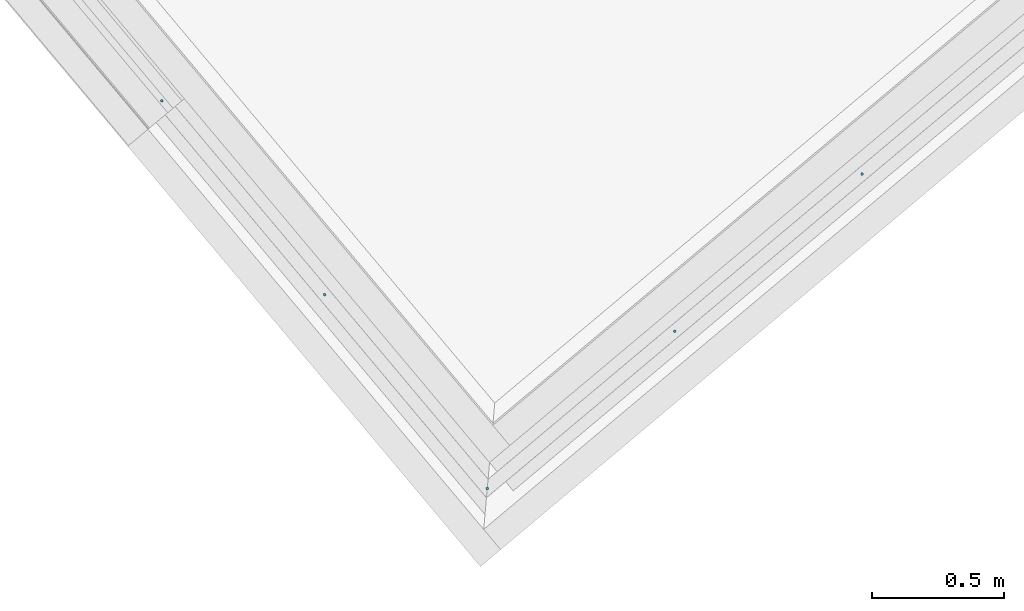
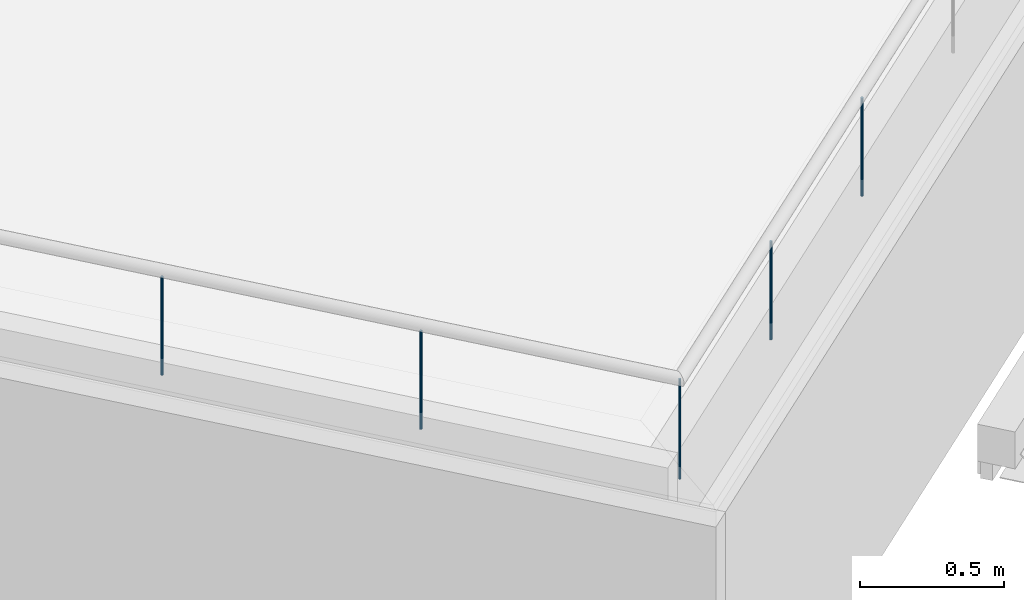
# One storey, part 5 of 321: 5 members, 1 element without a shape of its own.
"""IFC2X3 building model written with IfcOpenShell, lengths in millimetres."""

from ifc_helpers import new_model, entity, si_unit, converted_unit, derived_unit, money_unit, direction, frame, origin_with_axes, place, context, subcontext, project, spatial, faceted_brep, source, transform, mapped, material, type_object, type_shapes, element, aggregate, save


model = new_model("IFC2X3")

# Units and contexts
model_context = context("Model", 3, precision=0.01, world=origin_with_axes(), true_north=direction((0.0, 1.0)))
plan_context = context("Plan", 3, precision=0.01, world=origin_with_axes(), true_north=direction((0.0, 1.0)))
body_context = subcontext(model_context, "Body", "Model", "MODEL_VIEW")
ifc_project = project(units=[si_unit("LENGTHUNIT", "METRE", prefix="MILLI"), si_unit("AREAUNIT", "SQUARE_METRE"), si_unit("VOLUMEUNIT", "CUBIC_METRE"), converted_unit("PLANEANGLEUNIT", "DEGREE", entity("IfcPlaneAngleMeasure", 0.0174532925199), si_unit("PLANEANGLEUNIT", "RADIAN"), dimensions=[0, 0, 0, 0, 0, 0, 0]), money_unit("EUR"), converted_unit("TIMEUNIT", "Year", entity("IfcTimeMeasure", 31556926.0), si_unit("TIMEUNIT", "SECOND"), dimensions=[0, 0, 1, 0, 0, 0, 0]), si_unit("MASSUNIT", "GRAM", prefix="KILO"), si_unit("THERMODYNAMICTEMPERATUREUNIT", "DEGREE_CELSIUS"), si_unit("LUMINOUSINTENSITYUNIT", "LUMEN"), si_unit("ENERGYUNIT", "JOULE", prefix="MEGA"), derived_unit("THERMALCONDUCTANCEUNIT", [(si_unit("POWERUNIT", "WATT"), 1), (si_unit("LENGTHUNIT", "METRE"), -1), (si_unit("THERMODYNAMICTEMPERATUREUNIT", "KELVIN"), -1)]), derived_unit("SPECIFICHEATCAPACITYUNIT", [(si_unit("ENERGYUNIT", "JOULE"), 1), (si_unit("MASSUNIT", "GRAM", prefix="KILO"), -1), (si_unit("THERMODYNAMICTEMPERATUREUNIT", "KELVIN"), -1)]), derived_unit("MASSDENSITYUNIT", [(si_unit("MASSUNIT", "GRAM", prefix="KILO"), 1), (si_unit("VOLUMEUNIT", "CUBIC_METRE"), -1)])], contexts=[model_context, plan_context])

# Site, building, storey
site_placement = place(None, origin_with_axes())
site = spatial("IfcSite", under=ifc_project, at=site_placement, Name="Fortuinstraat Woensdrecht", CompositionType="ELEMENT")
building_placement = place(site_placement, origin_with_axes())
building = spatial("IfcBuilding", under=site, at=building_placement, Name="IKC Fortuna", CompositionType="ELEMENT")
storey_placement = place(building_placement, frame((0.0, 0.0, 4000.0), z_axis=(0.0, 0.0, 1.0), x_axis=(1.0, 0.0, 0.0)))
storey = spatial("IfcBuildingStorey", under=building, at=storey_placement, Name="01 eerste verdieping", CompositionType="ELEMENT", Elevation=4000.0)

# Railing, members
railing_type = type_object("IfcRailingType", Name="Railing Type", PredefinedType="NOTDEFINED")
railing_placement = place(storey_placement, frame((4151.56334028, 3601.06192057, 2353.5), z_axis=(0.0, 0.0, 1.0), x_axis=(1.0, 0.0, 0.0)))
railing = element("IfcRailing", 1, at=railing_placement, inside=storey, type_object=railing_type, Name="34_Reling_Reling vide", PredefinedType="NOTDEFINED")
ifc_material = material(Name="Metaal - Staal AFW")
member_type_1 = type_object("IfcMemberType", Name="IfcMember", PredefinedType="POST")
shared_shape_1 = source(origin_with_axes(), body_context, "Body", "Brep", [
    faceted_brep([(0.0, -5.0, 0.0), (0.868240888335, -4.92403876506, 0.0), (0.868240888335, -4.92403876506, 425.0), (0.0, -5.0, 425.0), (-0.868240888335, -4.92403876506, 0.0), (-1.71010071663, -4.69846310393, 0.0), (-2.5, -4.33012701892, 0.0), (-3.21393804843, -3.83022221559, 0.0), (-3.83022221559, -3.21393804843, 0.0), (-4.33012701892, -2.5, 0.0), (-4.69846310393, -1.71010071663, 0.0), (-4.92403876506, -0.868240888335, 0.0), (-5.0, 0.0, 0.0), (-4.92403876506, 0.868240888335, 0.0), (-4.69846310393, 1.71010071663, 0.0), (-4.33012701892, 2.5, 0.0), (-3.83022221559, 3.21393804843, 0.0), (-3.21393804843, 3.83022221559, 0.0), (-2.5, 4.33012701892, 0.0), (-1.71010071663, 4.69846310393, 0.0), (-0.868240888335, 4.92403876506, 0.0), (0.0, 5.0, 0.0), (0.868240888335, 4.92403876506, 0.0), (1.71010071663, 4.69846310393, 0.0), (2.5, 4.33012701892, 0.0), (3.21393804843, 3.83022221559, 0.0), (3.83022221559, 3.21393804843, 0.0), (4.33012701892, 2.5, 0.0), (4.69846310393, 1.71010071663, 0.0), (4.92403876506, 0.868240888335, 0.0), (5.0, 0.0, 0.0), (4.92403876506, -0.868240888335, 0.0), (4.69846310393, -1.71010071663, 0.0), (4.33012701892, -2.5, 0.0), (3.83022221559, -3.21393804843, 0.0), (3.21393804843, -3.83022221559, 0.0), (2.5, -4.33012701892, 0.0), (1.71010071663, -4.69846310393, 0.0), (1.71010071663, -4.69846310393, 425.0), (2.5, -4.33012701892, 425.0), (3.21393804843, -3.83022221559, 425.0), (3.83022221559, -3.21393804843, 425.0), (4.33012701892, -2.5, 425.0), (4.69846310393, -1.71010071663, 425.0), (4.92403876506, -0.868240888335, 425.0), (5.0, 0.0, 425.0), (4.92403876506, 0.868240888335, 425.0), (4.69846310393, 1.71010071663, 425.0), (4.33012701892, 2.5, 425.0), (3.83022221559, 3.21393804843, 425.0), (3.21393804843, 3.83022221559, 425.0), (2.5, 4.33012701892, 425.0), (1.71010071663, 4.69846310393, 425.0), (0.868240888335, 4.92403876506, 425.0), (0.0, 5.0, 425.0), (-0.868240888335, 4.92403876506, 425.0), (-1.71010071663, 4.69846310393, 425.0), (-2.5, 4.33012701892, 425.0), (-3.21393804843, 3.83022221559, 425.0), (-3.83022221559, 3.21393804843, 425.0), (-4.33012701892, 2.5, 425.0), (-4.69846310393, 1.71010071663, 425.0), (-4.92403876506, 0.868240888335, 425.0), (-5.0, 0.0, 425.0), (-4.92403876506, -0.868240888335, 425.0), (-4.69846310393, -1.71010071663, 425.0), (-4.33012701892, -2.5, 425.0), (-3.83022221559, -3.21393804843, 425.0), (-3.21393804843, -3.83022221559, 425.0), (-2.5, -4.33012701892, 425.0), (-1.71010071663, -4.69846310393, 425.0), (-0.868240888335, -4.92403876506, 425.0)], [[[0, 1, 2, 3]], [[0, 4, 5, 6, 7, 8, 9, 10, 11, 12, 13, 14, 15, 16, 17, 18, 19, 20, 21, 22, 23, 24, 25, 26, 27, 28, 29, 30, 31, 32, 33, 34, 35, 36, 37, 1]], [[1, 37, 38, 2]], [[3, 2, 38, 39, 40, 41, 42, 43, 44, 45, 46, 47, 48, 49, 50, 51, 52, 53, 54, 55, 56, 57, 58, 59, 60, 61, 62, 63, 64, 65, 66, 67, 68, 69, 70, 71]], [[4, 0, 3, 71]], [[5, 4, 71, 70]], [[6, 5, 70, 69]], [[7, 6, 69, 68]], [[8, 7, 68, 67]], [[9, 8, 67, 66]], [[10, 9, 66, 65]], [[11, 10, 65, 64]], [[12, 11, 64, 63]], [[13, 12, 63, 62]], [[14, 13, 62, 61]], [[15, 14, 61, 60]], [[16, 15, 60, 59]], [[17, 16, 59, 58]], [[18, 17, 58, 57]], [[19, 18, 57, 56]], [[20, 19, 56, 55]], [[21, 20, 55, 54]], [[22, 21, 54, 53]], [[23, 22, 53, 52]], [[24, 23, 52, 51]], [[25, 24, 51, 50]], [[26, 25, 50, 49]], [[27, 26, 49, 48]], [[28, 27, 48, 47]], [[29, 28, 47, 46]], [[30, 29, 46, 45]], [[31, 30, 45, 44]], [[32, 31, 44, 43]], [[33, 32, 43, 42]], [[34, 33, 42, 41]], [[35, 34, 41, 40]], [[36, 35, 40, 39]], [[37, 36, 39, 38]]]),
])
type_shapes(member_type_1, [shared_shape_1])
member_1_placement = place(railing_placement, frame((9934.85533253, -20497.5026434, 0.0), z_axis=(0.0, 0.0, 1.0), x_axis=(1.0, 0.0, 0.0)))
member_1 = element("IfcMember", 2, at=member_1_placement, type_object=member_type_1, material=ifc_material, Name="_Reling - baluster_", ObjectType="POST", context=body_context, shape_type="MappedRepresentation", body=[
    mapped(shared_shape_1, transform((0.0, 0.0, 0.0), x_axis=(-0.766044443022, -0.642787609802, 0.0), y_axis=(0.642787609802, -0.766044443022, 0.0), z_axis=(0.0, 0.0, 1.0))),
])
member_type_2 = type_object("IfcMemberType", Name="IfcMember", PredefinedType="MEMBER")
shared_shape_2 = source(origin_with_axes(), body_context, "Body", "Brep", [
    faceted_brep([(0.0, -5.0, 0.0), (0.868240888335, -4.92403876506, 0.0), (0.868240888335, -4.92403876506, 418.5), (0.0, -5.0, 418.5), (-0.868240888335, -4.92403876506, 0.0), (-1.71010071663, -4.69846310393, 0.0), (-2.5, -4.33012701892, 0.0), (-3.21393804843, -3.83022221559, 0.0), (-3.83022221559, -3.21393804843, 0.0), (-4.33012701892, -2.5, 0.0), (-4.69846310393, -1.71010071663, 0.0), (-4.92403876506, -0.868240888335, 0.0), (-5.0, 0.0, 0.0), (-4.92403876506, 0.868240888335, 0.0), (-4.69846310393, 1.71010071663, 0.0), (-4.33012701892, 2.5, 0.0), (-3.83022221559, 3.21393804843, 0.0), (-3.21393804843, 3.83022221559, 0.0), (-2.5, 4.33012701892, 0.0), (-1.71010071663, 4.69846310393, 0.0), (-0.868240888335, 4.92403876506, 0.0), (0.0, 5.0, 0.0), (0.868240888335, 4.92403876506, 0.0), (1.71010071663, 4.69846310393, 0.0), (2.5, 4.33012701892, 0.0), (3.21393804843, 3.83022221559, 0.0), (3.83022221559, 3.21393804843, 0.0), (4.33012701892, 2.5, 0.0), (4.69846310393, 1.71010071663, 0.0), (4.92403876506, 0.868240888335, 0.0), (5.0, 0.0, 0.0), (4.92403876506, -0.868240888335, 0.0), (4.69846310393, -1.71010071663, 0.0), (4.33012701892, -2.5, 0.0), (3.83022221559, -3.21393804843, 0.0), (3.21393804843, -3.83022221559, 0.0), (2.5, -4.33012701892, 0.0), (1.71010071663, -4.69846310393, 0.0), (1.71010071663, -4.69846310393, 418.5), (2.5, -4.33012701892, 418.5), (3.21393804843, -3.83022221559, 418.5), (3.83022221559, -3.21393804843, 418.5), (4.33012701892, -2.5, 418.5), (4.69846310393, -1.71010071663, 418.5), (4.92403876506, -0.868240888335, 418.5), (5.0, 0.0, 418.5), (4.92403876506, 0.868240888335, 418.5), (4.69846310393, 1.71010071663, 418.5), (4.33012701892, 2.5, 418.5), (3.83022221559, 3.21393804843, 418.5), (3.21393804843, 3.83022221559, 418.5), (2.5, 4.33012701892, 418.5), (1.71010071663, 4.69846310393, 418.5), (0.868240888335, 4.92403876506, 418.5), (0.0, 5.0, 418.5), (-0.868240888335, 4.92403876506, 418.5), (-1.71010071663, 4.69846310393, 418.5), (-2.5, 4.33012701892, 418.5), (-3.21393804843, 3.83022221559, 418.5), (-3.83022221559, 3.21393804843, 418.5), (-4.33012701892, 2.5, 418.5), (-4.69846310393, 1.71010071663, 418.5), (-4.92403876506, 0.868240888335, 418.5), (-5.0, 0.0, 418.5), (-4.92403876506, -0.868240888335, 418.5), (-4.69846310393, -1.71010071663, 418.5), (-4.33012701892, -2.5, 418.5), (-3.83022221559, -3.21393804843, 418.5), (-3.21393804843, -3.83022221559, 418.5), (-2.5, -4.33012701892, 418.5), (-1.71010071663, -4.69846310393, 418.5), (-0.868240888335, -4.92403876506, 418.5)], [[[0, 1, 2, 3]], [[0, 4, 5, 6, 7, 8, 9, 10, 11, 12, 13, 14, 15, 16, 17, 18, 19, 20, 21, 22, 23, 24, 25, 26, 27, 28, 29, 30, 31, 32, 33, 34, 35, 36, 37, 1]], [[1, 37, 38, 2]], [[3, 2, 38, 39, 40, 41, 42, 43, 44, 45, 46, 47, 48, 49, 50, 51, 52, 53, 54, 55, 56, 57, 58, 59, 60, 61, 62, 63, 64, 65, 66, 67, 68, 69, 70, 71]], [[4, 0, 3, 71]], [[5, 4, 71, 70]], [[6, 5, 70, 69]], [[7, 6, 69, 68]], [[8, 7, 68, 67]], [[9, 8, 67, 66]], [[10, 9, 66, 65]], [[11, 10, 65, 64]], [[12, 11, 64, 63]], [[13, 12, 63, 62]], [[14, 13, 62, 61]], [[15, 14, 61, 60]], [[16, 15, 60, 59]], [[17, 16, 59, 58]], [[18, 17, 58, 57]], [[19, 18, 57, 56]], [[20, 19, 56, 55]], [[21, 20, 55, 54]], [[22, 21, 54, 53]], [[23, 22, 53, 52]], [[24, 23, 52, 51]], [[25, 24, 51, 50]], [[26, 25, 50, 49]], [[27, 26, 49, 48]], [[28, 27, 48, 47]], [[29, 28, 47, 46]], [[30, 29, 46, 45]], [[31, 30, 45, 44]], [[32, 31, 44, 43]], [[33, 32, 43, 42]], [[34, 33, 42, 41]], [[35, 34, 41, 40]], [[36, 35, 40, 39]], [[37, 36, 39, 38]]]),
])
type_shapes(member_type_2, [shared_shape_2])
member_2_placement = place(railing_placement, frame((8701.37386153, -19027.4966694, -18.5), z_axis=(0.0, 0.0, 1.0), x_axis=(1.0, 0.0, 0.0)))
member_2 = element("IfcMember", 3, at=member_2_placement, type_object=member_type_2, material=ifc_material, Name="_Onderdeel_Spijlen-x", ObjectType="MEMBER", context=body_context, shape_type="MappedRepresentation", body=[
    mapped(shared_shape_2, transform((0.0, 0.0, 0.0), x_axis=(-0.766044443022, -0.642787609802, 0.0), y_axis=(0.642787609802, -0.766044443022, 0.0), z_axis=(0.0, 0.0, 1.0))),
])
member_3_placement = place(railing_placement, frame((9318.11459703, -19762.4996564, -18.5), z_axis=(0.0, 0.0, 1.0), x_axis=(1.0, 0.0, 0.0)))
member_3 = element("IfcMember", 4, at=member_3_placement, type_object=member_type_2, material=ifc_material, Name="_Onderdeel_Spijlen-x", ObjectType="MEMBER", context=body_context, shape_type="MappedRepresentation", body=[
    mapped(shared_shape_2, transform((0.0, 0.0, 0.0), x_axis=(-0.766044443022, -0.642787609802, 0.0), y_axis=(0.642787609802, -0.766044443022, 0.0), z_axis=(0.0, 0.0, 1.0))),
])
member_4_placement = place(railing_placement, frame((10645.3618409, -19901.3174979, -18.5), z_axis=(0.0, 0.0, 1.0), x_axis=(1.0, 0.0, 0.0)))
member_4 = element("IfcMember", 5, at=member_4_placement, type_object=member_type_2, material=ifc_material, Name="_Onderdeel_Spijlen-x", ObjectType="MEMBER", context=body_context, shape_type="MappedRepresentation", body=[
    mapped(shared_shape_2, transform((0.0, 0.0, 0.0), x_axis=(0.642787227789, -0.766044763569, 0.0), y_axis=(0.766044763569, 0.642787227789, 0.0), z_axis=(0.0, 0.0, 1.0))),
])
member_5_placement = place(railing_placement, frame((11355.8683494, -19305.1323523, -18.5), z_axis=(0.0, 0.0, 1.0), x_axis=(1.0, 0.0, 0.0)))
member_5 = element("IfcMember", 6, at=member_5_placement, type_object=member_type_2, material=ifc_material, Name="_Onderdeel_Spijlen-x", ObjectType="MEMBER", context=body_context, shape_type="MappedRepresentation", body=[
    mapped(shared_shape_2, transform((0.0, 0.0, 0.0), x_axis=(0.642787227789, -0.766044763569, 0.0), y_axis=(0.766044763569, 0.642787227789, 0.0), z_axis=(0.0, 0.0, 1.0))),
])
aggregate(railing, [member_1, member_2, member_3, member_4, member_5])

save(model, "model.ifc")
